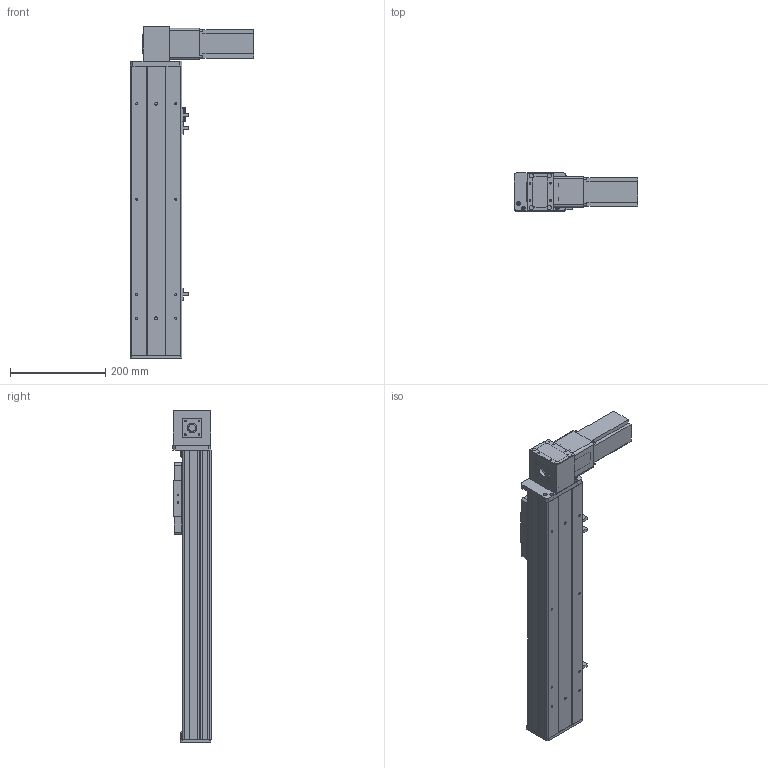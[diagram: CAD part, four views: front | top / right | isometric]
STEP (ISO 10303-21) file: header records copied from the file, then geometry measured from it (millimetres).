
FILE_DESCRIPTION (( 'STEP AP203' ), '1' );
FILE_NAME ('Y10CB-D90-S350-BD-P400W.STEP', '2020-02-17T02:21:39', ( '微软用户' ), ( '微软中国' ), 'SwSTEP 2.0', 'SolidWorks 2017', '' );
FILE_SCHEMA (( 'CONFIG_CONTROL_DESIGN' ));
Length unit declared in the file: millimetre
Products named in the file (16): 0B-薊粣ん眊; 10CB-詩湍-; Y10CB-D90-S350-BD-P400W; Y10CB- 掛极耜裔啣-毀---; Y10C---詩湍揤啣; 0CB-雄赽釱---; 10CB9-掛极; 0Cb-俋欶---; 10CB-耜裔; Y10B-々湍喘謫眊楊擘啣--; Y135C-陔俋离換覜結え-; san松下电机400不带刹车----; Y100-135俋离換覜ん--; 0B-源倛裔啣; Y10B--々湍喘謫眊--666; 0B-埴倛裔啣
Assembly tree (19 placements, depth 2):
  Y10CB-D90-S350-BD-P400W
    0CB-雄赽釱---
    0Cb-俋欶---
    Y10B-々湍喘謫眊楊擘啣--
    san松下电机400不带刹车----
    0B-源倛裔啣
    0B-埴倛裔啣
    10CB-詩湍-
    Y10CB- 掛极耜裔啣-毀---  x2
    Y10C---詩湍揤啣  x2
    10CB9-掛极
    10CB-耜裔
    Y135C-陔俋离換覜結え-
    Y100-135俋离換覜ん--  x3
    Y10B--々湍喘謫眊--666
    0B-薊粣ん眊
Bounding box: 258 x 80.5 x 696 mm (x, y, z)
Volume: 2001879.2 mm3; surface area: 795664.1 mm2
Topology: 19 solids, 19 shells, 864 faces, 2262 edges, 1484 vertices
Faces by surface type: plane 430, cylinder 410, cone 24
Entity records: 26069 total; most frequent: CARTESIAN_POINT 4460, DIRECTION 4253, ORIENTED_EDGE 3994, EDGE_CURVE 1997, AXIS2_PLACEMENT_3D 1527, VERTEX_POINT 1310, VECTOR 1199, LINE 1199
